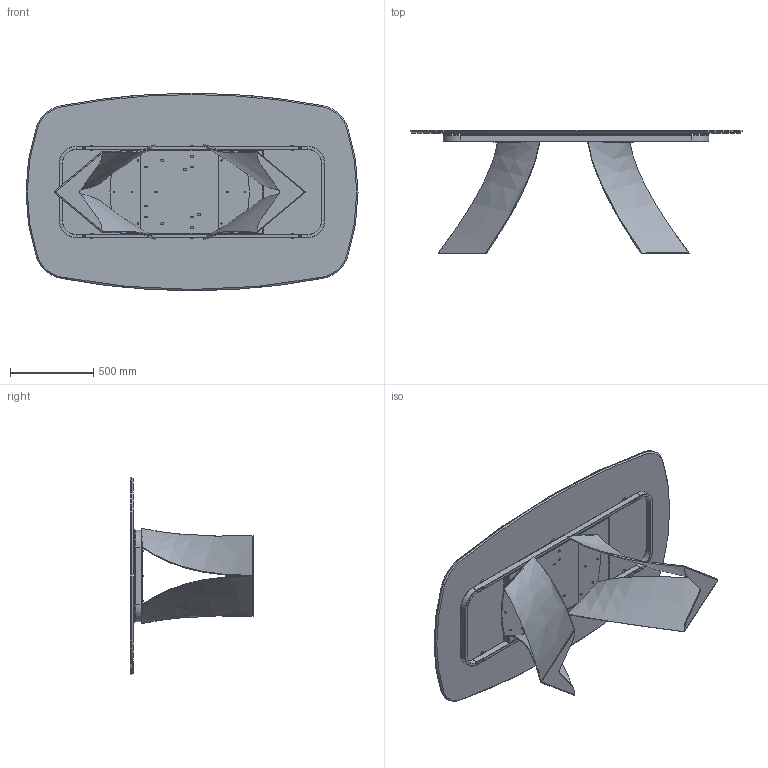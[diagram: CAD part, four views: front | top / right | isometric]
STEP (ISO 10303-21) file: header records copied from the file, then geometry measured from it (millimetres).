
FILE_DESCRIPTION (( 'STEP AP203' ), '1' );
FILE_NAME ('TW40C.STEP', '2024-08-07T12:42:54', ( '' ), ( '' ), 'SwSTEP 2.0', 'SolidWorks 2022', '' );
FILE_SCHEMA (( 'CONFIG_CONTROL_DESIGN' ));
Length unit declared in the file: millimetre
Products named in the file (9): 434070-00-PIEDINO TPV GOMMA NERO D. 30x8max18; TW40C; rondella M8_8X16; K4XCMXX-00-Piani Sagomati in ceramica_2000 x 1190; TUBOLARE TELAIO TEMP TWIST_Default<A macchina>; M8xXXmm_M8x20mm; TTAV01_02-01-VASSOIO IRRIGIDIMENTO TELAIO UNIVERSALE; TWS000000BAS-00-TWIST BASE GREZZA; TEALIO TEMP PER MANUALE
Assembly tree (36 placements, depth 3):
  TW40C
    K4XCMXX-00-Piani Sagomati in ceramica_2000 x 1190
    TEALIO TEMP PER MANUALE
      TUBOLARE TELAIO TEMP TWIST_Default<A macchina>
      TTAV01_02-01-VASSOIO IRRIGIDIMENTO TELAIO UNIVERSALE
    TWS000000BAS-00-TWIST BASE GREZZA  x2
    M8xXXmm_M8x20mm  x12
    rondella M8_8X16  x12
    434070-00-PIEDINO TPV GOMMA NERO D. 30x8max18  x6
Bounding box: 2000 x 741.37 x 1190 mm (x, y, z)
Volume: 44631206.4 mm3; surface area: 13073602 mm2
Topology: 57 solids, 57 shells, 1129 faces, 2631 edges, 1604 vertices
Faces by surface type: plane 426, cylinder 296, torus 200, cone 141, bspline 66
Entity records: 23066 total; most frequent: CARTESIAN_POINT 9021, DIRECTION 2638, ORIENTED_EDGE 2524, EDGE_CURVE 1262, AXIS2_PLACEMENT_3D 987, VERTEX_POINT 817, VECTOR 664, LINE 664
